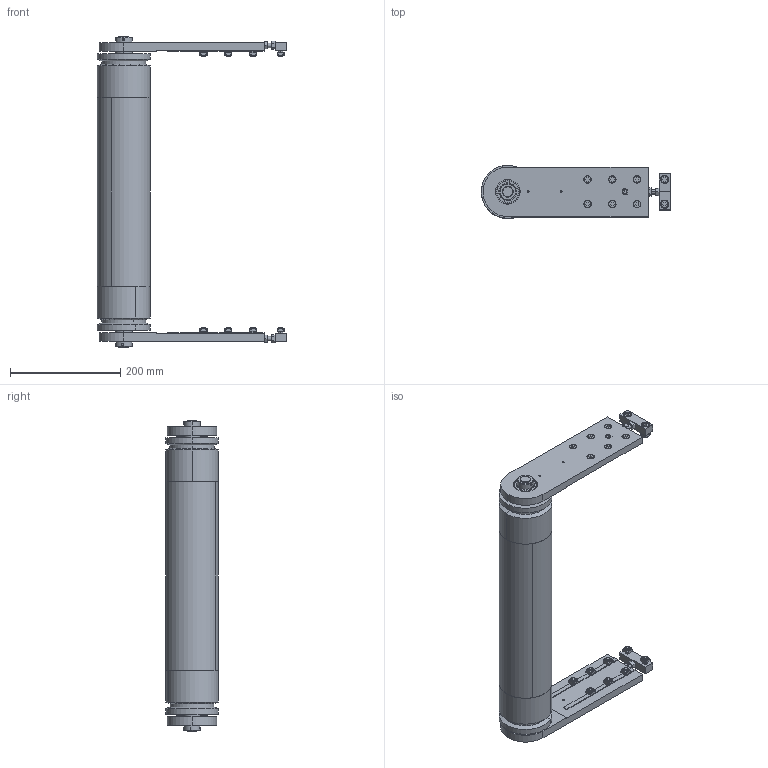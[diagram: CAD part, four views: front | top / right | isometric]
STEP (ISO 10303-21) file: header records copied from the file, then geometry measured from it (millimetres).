
FILE_DESCRIPTION (( 'STEP AP203' ), '1' );
FILE_NAME ('084.095.KIZ.500.STEP', '2019-07-30T08:27:52', ( '' ), ( '' ), 'SwSTEP 2.0', 'SolidWorks 2018', '' );
FILE_SCHEMA (( 'CONFIG_CONTROL_DESIGN' ));
Length unit declared in the file: millimetre
Products named in the file (11): 084.095.KIZ.500; 084.808.002_084.808.002; CHIAVETTE_A 8x7x50 UNI 6604-69; 084.803.003; 449.014.106; DADO ESAGONALE AUTOBLOCCANTE RIBASSATO M30-UNI 7474; 084.302.000 DADI ALUSIC 13x13-1_084.302.004; 084.301.000 VITI ALUSIC_084.301.003; 084.802.019_084.802.019; 084.812.024.500; 084.812.025.500_Default<A macchina>
Assembly tree (45 placements, depth 2):
  084.095.KIZ.500
    084.812.025.500_Default<A macchina>
    084.812.024.500
    449.014.106  x2
    084.803.003  x2
    084.808.002_084.808.002  x2
    084.802.019_084.802.019  x2
    084.301.000 VITI ALUSIC_084.301.003  x16
    084.302.000 DADI ALUSIC 13x13-1_084.302.004  x16
    DADO ESAGONALE AUTOBLOCCANTE RIBASSATO M30-UNI 7474  x2
    CHIAVETTE_A 8x7x50 UNI 6604-69
Bounding box: 344 x 96 x 565 mm (x, y, z)
Volume: 2730671.6 mm3; surface area: 705197.2 mm2
Topology: 51 solids, 53 shells, 1242 faces, 3097 edges, 2007 vertices
Faces by surface type: plane 478, cylinder 380, torus 148, bspline 120, cone 108, sphere 8
Entity records: 14408 total; most frequent: CARTESIAN_POINT 3159, DIRECTION 1962, ORIENTED_EDGE 1868, EDGE_CURVE 934, AXIS2_PLACEMENT_3D 765, VERTEX_POINT 608, VECTOR 432, EDGE_LOOP 432
